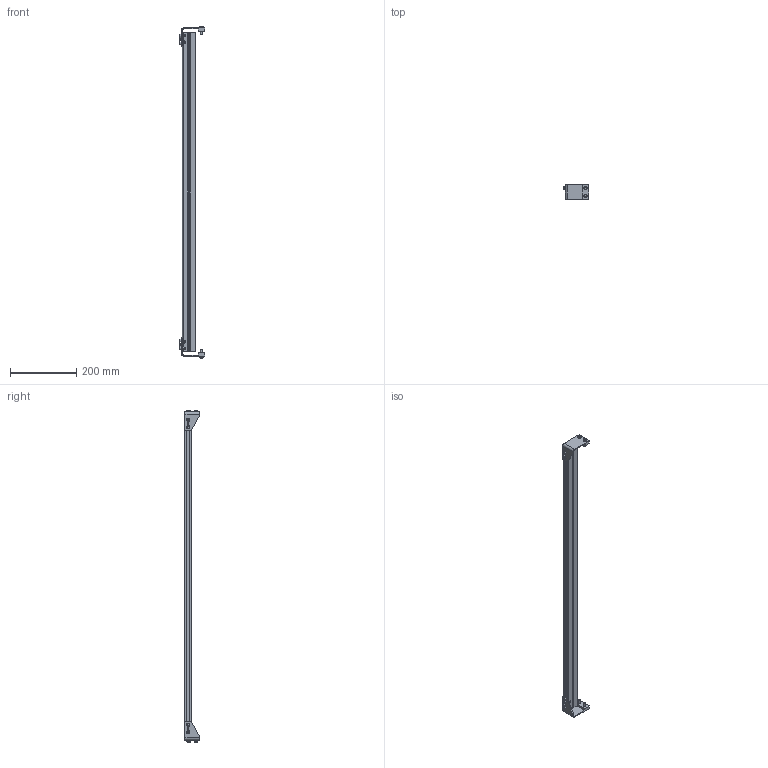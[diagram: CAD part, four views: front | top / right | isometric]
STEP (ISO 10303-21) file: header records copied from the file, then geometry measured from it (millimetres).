
FILE_DESCRIPTION((''),'2;1');
FILE_NAME('3076WWM_2_ASM','2023-03-15T',('jenni.wallner'),(''),'PRO/ENGINEER BY PARAMETRIC TECHNOLOGY CORPORATION, 2012420','PRO/ENGINEER BY PARAMETRIC TECHNOLOGY CORPORATION, 2012420','');
FILE_SCHEMA(('CONFIG_CONTROL_DESIGN'));
Length unit declared in the file: inch
Products named in the file (4): 677721_1; BRACKET_L; BRACKET_R; 3076WWM_2_ASM
Assembly tree (3 placements, depth 2):
  3076WWM_2_ASM
    677721_1
    BRACKET_L
    BRACKET_R
Bounding box: 76.2 x 46.13 x 1002.02 mm (x, y, z)
Volume: 435970 mm3; surface area: 262199.6 mm2
Topology: 3 solids, 3 shells, 296 faces, 730 edges, 476 vertices
Faces by surface type: plane 188, cylinder 76, cone 32
Entity records: 8834 total; most frequent: CARTESIAN_POINT 1525, DIRECTION 1512, ORIENTED_EDGE 1460, EDGE_CURVE 730, VECTOR 538, LINE 538, AXIS2_PLACEMENT_3D 487, VERTEX_POINT 476
